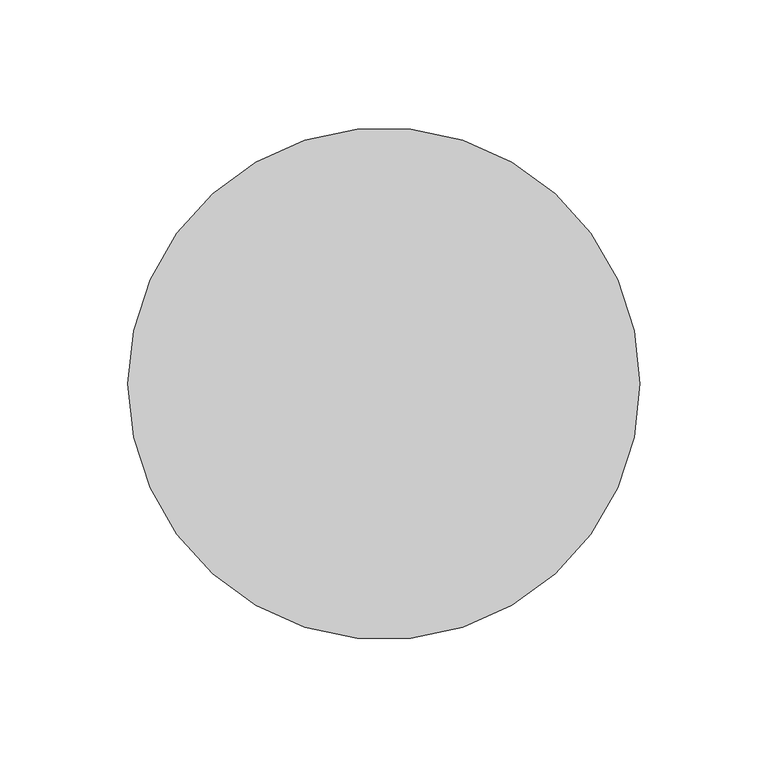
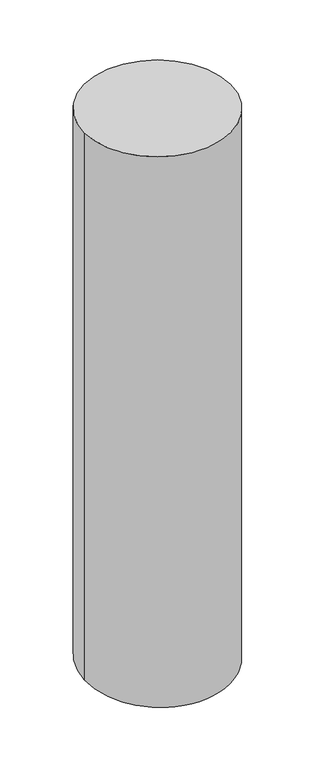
"""IFC4 building model written with IfcOpenShell, lengths in millimetres: member geometry, 矩形竖梃 : 圆瓦."""

from ifc_helpers import new_model, si_unit, frame, origin, origin_with_axes, place, context, project, spatial, circle_curve, ellipse_curve, source, transform, mapped, element, save
from ifc_brep_helpers import plane_surface, cylinder_surface, advanced_brep


def member_1e72f84d(model_context):
    return source(origin(), model_context, "Body", "AdvancedBrep", [
        advanced_brep(
        [(100.0, 0.0, 0.0), (-100.0, 0.0, 0.0), (100.0, 0.0, -790.1124317), (-100.0, 0.0, -790.1124317)],
        [
            (0, 1, circle_curve(origin_with_axes(), 100.0)),
            (1, 0, circle_curve(origin_with_axes(), 100.0)),
            (0, 2),
            (2, 3, ellipse_curve(frame((0.0, 0.0, -790.1124317), z_axis=(0.0, -0.061820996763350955, 0.9980872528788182), x_axis=(0.0, 0.9980872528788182, 0.06182099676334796)), 100.1916413, 100.0)),
            (3, 1),
            (3, 2, ellipse_curve(frame((0.0, 0.0, -790.1124317), z_axis=(0.0, -0.061820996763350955, 0.9980872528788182), x_axis=(0.0, 0.9980872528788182, 0.06182099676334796)), 100.1916413, 100.0)),
        ],
        [
            plane_surface(frame((0.0, -100.0, 0.0), z_axis=(0.0, 0.0, 1.0), x_axis=(-1.0, 0.0, 0.0))),
            cylinder_surface(origin_with_axes(), 100.0),
            plane_surface(frame((-304.8, 0.0, -790.1124317), z_axis=(0.0, 0.061820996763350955, -0.9980872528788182), x_axis=(0.0, 0.9980872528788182, 0.061820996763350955))),
        ],
        [
            (0, [[1, 2]]),
            (1, [[-1, 3, 4, 5]]),
            (1, [[-2, -5, 6, -3]]),
            (2, [[-6, -4]]),
        ],
    ),
    ])


if __name__ == "__main__":
    model = new_model("IFC4")
    model_context = context("Model", 3, world=origin())
    ifc_project = project(units=[si_unit("LENGTHUNIT", "METRE", prefix="MILLI")], contexts=[model_context])
    site = spatial("IfcSite", under=ifc_project)
    building = spatial("IfcBuilding", under=site)
    placement = place(None, origin())
    member_shape = member_1e72f84d(model_context)
    element("IfcMember", 1, ObjectType="矩形竖梃 : 圆瓦", at=placement, inside=building, context=model_context, shape_type="MappedRepresentation", body=[
        mapped(member_shape, transform((0.0, 0.0, 0.0), x_axis=(1.0, 0.0, 0.0), y_axis=(0.0, 1.0, 0.0), z_axis=(0.0, 0.0, 1.0))),
    ])
    save(model, "model.ifc")
